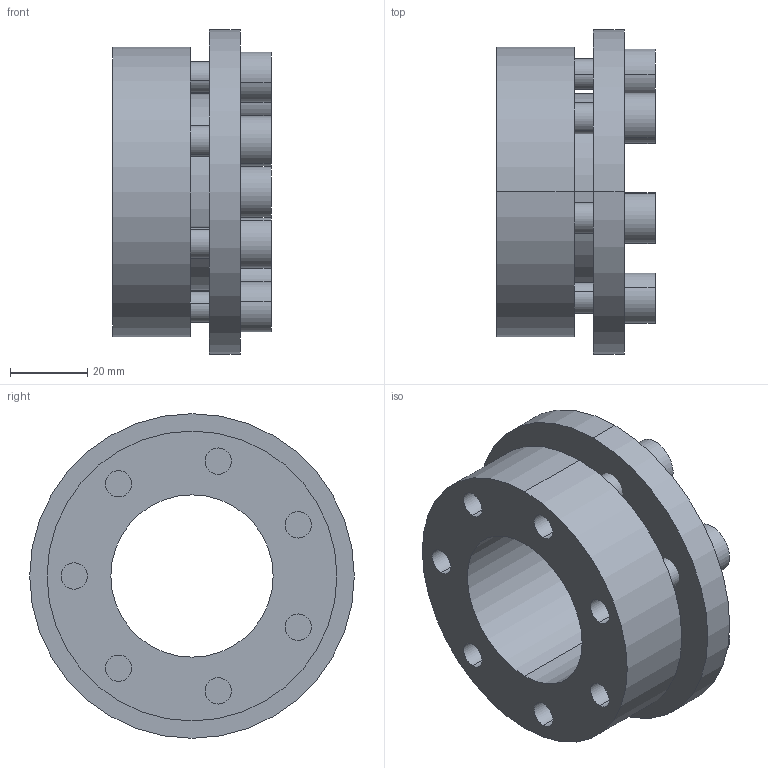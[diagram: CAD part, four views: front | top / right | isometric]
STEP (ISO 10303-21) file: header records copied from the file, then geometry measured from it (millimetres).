
FILE_DESCRIPTION (( 'STEP AP203' ), '1' );
FILE_NAME ('SES-42.step', '2009-09-29T16:44:30', ( 'USER' ), ( 'HOME' ), 'SwSTEP 2.0', 'SolidWorks 2007', '' );
FILE_SCHEMA (( 'CONFIG_CONTROL_DESIGN' ));
Length unit declared in the file: millimetre
Products named in the file (1): SES-42
Bounding box: 41 x 84 x 84 mm (x, y, z)
Volume: 106916.4 mm3; surface area: 37574.2 mm2
Topology: 8 solids, 8 shells, 138 faces, 318 edges, 212 vertices
Faces by surface type: plane 74, cylinder 64
Entity records: 4073 total; most frequent: DIRECTION 724, CARTESIAN_POINT 669, ORIENTED_EDGE 636, EDGE_CURVE 318, AXIS2_PLACEMENT_3D 267, VERTEX_POINT 212, VECTOR 190, LINE 190
